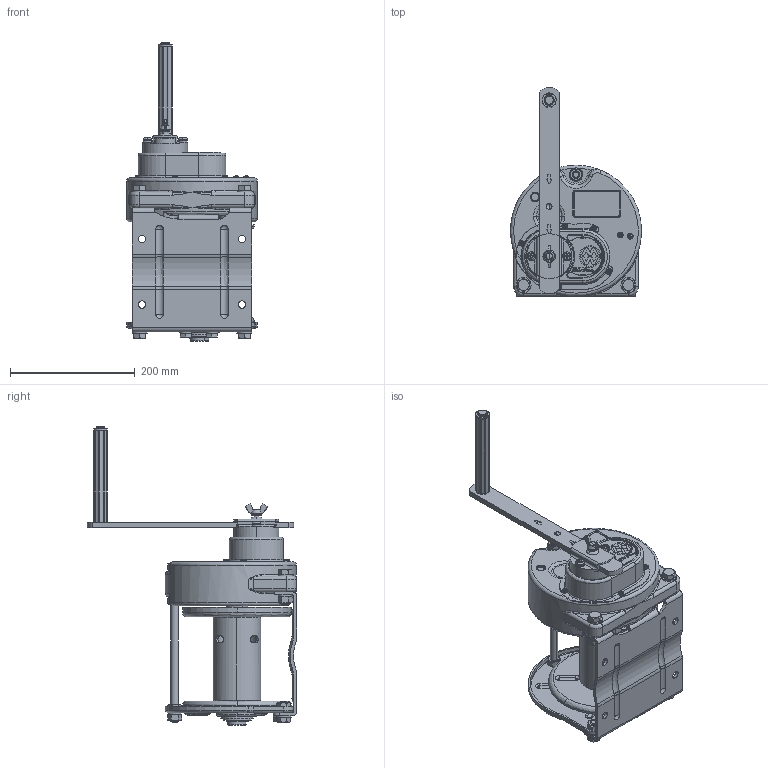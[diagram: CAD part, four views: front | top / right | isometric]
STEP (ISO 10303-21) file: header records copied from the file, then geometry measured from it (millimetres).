
FILE_DESCRIPTION( (''), '2;1');
FILE_NAME ('GM-5-SI.stp','2023-12-21T16:02:48',(''),(''),'spGate 19.8.2 (****-****-****-****)','','');
FILE_SCHEMA (('AUTOMOTIVE_DESIGN'));
Length unit declared in the file: millimetre
Products named in the file (3): Assembly; GM-5-SI-prt0; GM-5-SI-prt1
Assembly tree (2 placements, depth 2):
  Assembly
    GM-5-SI-prt0
    GM-5-SI-prt1
Bounding box: 209.96 x 335.43 x 478.1 mm (x, y, z)
Volume: 3843183.3 mm3; surface area: 642088.1 mm2
Topology: 2 solids, 2 shells, 2533 faces, 6492 edges, 4060 vertices
Faces by surface type: plane 1201, cylinder 814, bspline 456, sphere 62
Entity records: 138772 total; most frequent: CARTESIAN_POINT 27116, ORIENTED_EDGE 12888, DIRECTION 12389, COLOUR_RGB 8979, PRESENTATION_STYLE_ASSIGNMENT 8979, STYLED_ITEM 8979, EDGE_CURVE 6444, DRAUGHTING_PRE_DEFINED_CURVE_FONT 6444
